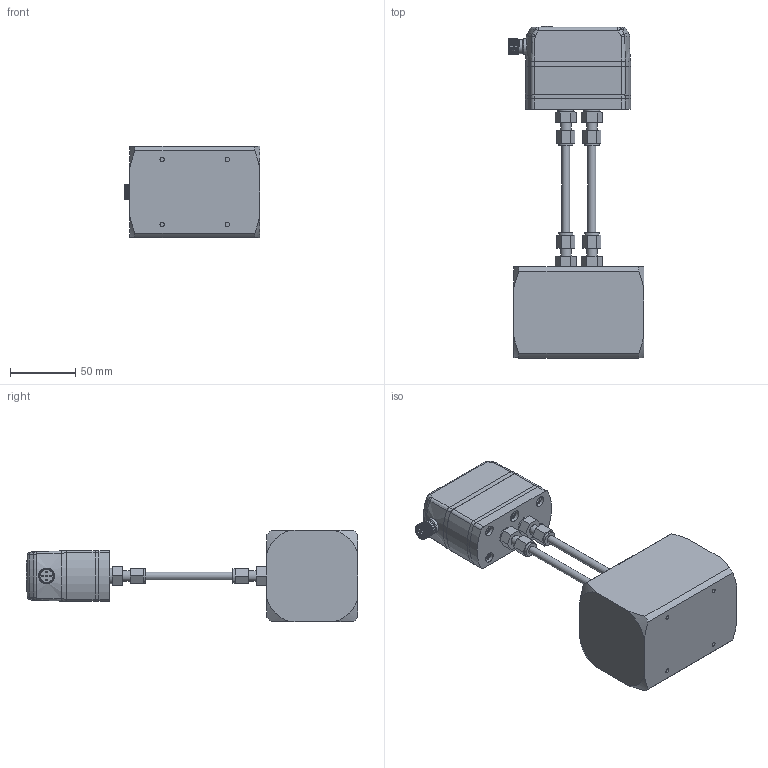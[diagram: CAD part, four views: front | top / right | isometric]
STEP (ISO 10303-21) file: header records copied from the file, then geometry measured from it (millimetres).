
FILE_DESCRIPTION( (''), '2;1');
FILE_NAME( 'QEKH_DN40_female-thread_high-temp.step', '2025-04-28T16:14:43+08:00', (''), (''), '', '', '');
FILE_SCHEMA (('AUTOMOTIVE_DESIGN { 1 0 10303 214 3 1 1 1 }'));
Products named in the file (1): QEKH DN40_female-thread_high-temp
Bounding box: 104.21 x 254.4 x 70 mm (x, y, z)
Volume: 694722.6 mm3; surface area: 121454.1 mm2
Topology: 30 solids, 33 shells, 1606 faces, 3948 edges, 2528 vertices
Faces by surface type: plane 805, cylinder 301, extrusion 239, cone 152, torus 52, bspline 48, sphere 9
Full cylindrical faces by diameter (mm): 1 x10, 2.05 x4, 2.6 x4, 2.7 x5, 2.874 x4, 3 x6, 3.1 x1, 3.3 x10, 3.5 x7, 3.838 x6, 4.5 x12, 5 x2, 5.5 x10, 6 x6, 7 x6, 8 x8, 9 x2, 9.8 x2, 10.8 x1, 11 x4, 11.992 x2, 12 x14, 14 x2, 14.5 x2, 17 x2, 19.1 x6
Entity records: 52889 total; most frequent: CARTESIAN_POINT 16739, ORIENTED_EDGE 7268, DIRECTION 6637, EDGE_CURVE 3634, VERTEX_POINT 2456, VECTOR 2239, AXIS2_PLACEMENT_3D 2199, EDGE_LOOP 2018
